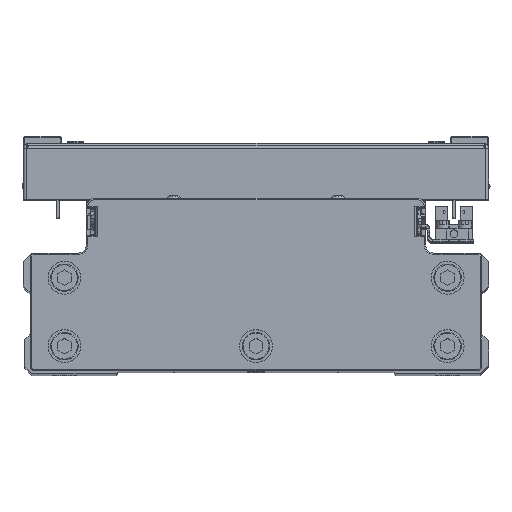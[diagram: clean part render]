
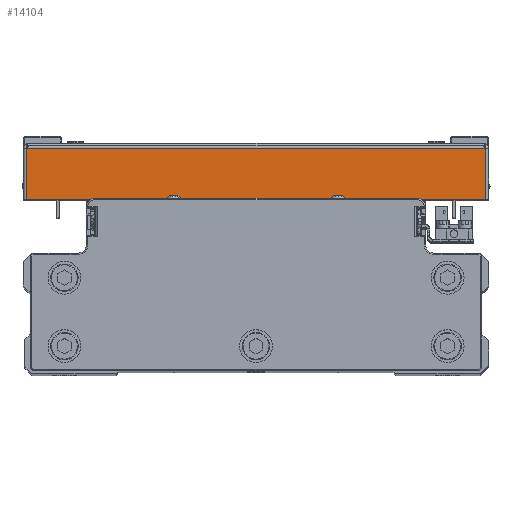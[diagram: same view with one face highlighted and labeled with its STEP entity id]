
A CAD part, top view. The second image highlights one B-rep face of the part: STEP entity #14104.
In plain terms, the highlighted planar face has unit normal (0, 0, 1) as drawn and (1, 0, 0) by its records, which use the part's own axes.
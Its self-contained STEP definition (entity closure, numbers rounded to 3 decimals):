
#1549 = VECTOR ( 'NONE', #44151, 1000. ) ;
#1892 = LINE ( 'NONE', #15516, #39617 ) ;
#4391 = LINE ( 'NONE', #18026, #31138 ) ;
#6548 = EDGE_CURVE ( 'NONE', #33382, #11484, #4391, .T. ) ;
#7460 = AXIS2_PLACEMENT_3D ( 'NONE', #40732, #10050, #23714 ) ;
#8072 = ORIENTED_EDGE ( 'NONE', *, *, #6548, .T. ) ;
#9003 = CARTESIAN_POINT ( 'NONE',  ( 110., 19.5, 83.929 ) ) ;
#9173 = EDGE_CURVE ( 'NONE', #11484, #43771, #1892, .T. ) ;
#10050 = DIRECTION ( 'NONE',  ( -1., 0., 0. ) ) ;
#10221 = DIRECTION ( 'NONE',  ( 0., 0., 1. ) ) ;
#11484 = VERTEX_POINT ( 'NONE', #26844 ) ;
#13404 = FACE_OUTER_BOUND ( 'NONE', #41893, .T. ) ;
#14104 = ADVANCED_FACE ( 'NONE', ( #13404 ), #27072, .F. ) ;
#15516 = CARTESIAN_POINT ( 'NONE',  ( 110., 19.5, 0. ) ) ;
#16023 = VECTOR ( 'NONE', #10221, 1000. ) ;
#16793 = LINE ( 'NONE', #30491, #1549 ) ;
#18026 = CARTESIAN_POINT ( 'NONE',  ( 110., 0., -83.929 ) ) ;
#18812 = ORIENTED_EDGE ( 'NONE', *, *, #38440, .F. ) ;
#19318 = CARTESIAN_POINT ( 'NONE',  ( 110., 1., -83.929 ) ) ;
#23714 = DIRECTION ( 'NONE',  ( 0., -1., 0. ) ) ;
#25048 = ORIENTED_EDGE ( 'NONE', *, *, #29359, .F. ) ;
#26844 = CARTESIAN_POINT ( 'NONE',  ( 110., 19.5, -83.929 ) ) ;
#27072 = PLANE ( 'NONE',  #7460 ) ;
#27234 = LINE ( 'NONE', #40897, #16023 ) ;
#29206 = DIRECTION ( 'NONE',  ( 0., 0., 1. ) ) ;
#29359 = EDGE_CURVE ( 'NONE', #33382, #41954, #27234, .T. ) ;
#30491 = CARTESIAN_POINT ( 'NONE',  ( 110., 0., 83.929 ) ) ;
#31138 = VECTOR ( 'NONE', #31721, 1000. ) ;
#31721 = DIRECTION ( 'NONE',  ( 0., 1., 0. ) ) ;
#33382 = VERTEX_POINT ( 'NONE', #19318 ) ;
#38440 = EDGE_CURVE ( 'NONE', #41954, #43771, #16793, .T. ) ;
#39617 = VECTOR ( 'NONE', #29206, 1000. ) ;
#40732 = CARTESIAN_POINT ( 'NONE',  ( 110., 0., 0. ) ) ;
#40852 = ORIENTED_EDGE ( 'NONE', *, *, #9173, .T. ) ;
#40897 = CARTESIAN_POINT ( 'NONE',  ( 110., 1., 85. ) ) ;
#41893 = EDGE_LOOP ( 'NONE', ( #25048, #8072, #40852, #18812 ) ) ;
#41954 = VERTEX_POINT ( 'NONE', #44181 ) ;
#43771 = VERTEX_POINT ( 'NONE', #9003 ) ;
#44151 = DIRECTION ( 'NONE',  ( 0., 1., 0. ) ) ;
#44181 = CARTESIAN_POINT ( 'NONE',  ( 110., 1., 83.929 ) ) ;
